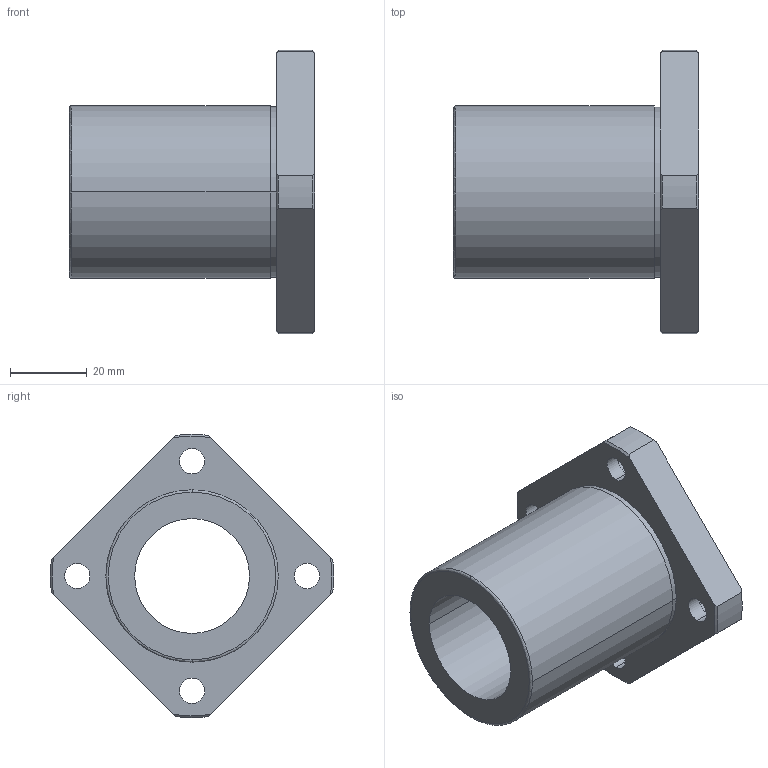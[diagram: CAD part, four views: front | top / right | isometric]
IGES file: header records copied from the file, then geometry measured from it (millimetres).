
Start section: 3D InterOp IGES (Version 21 0 1), Spatial Corp. Copyright (c) 1999-2007.
Global section: file name: NF-30TVUU.igs; native system: Spatial Corp.; preprocessor: 3D InterOp GENERIC/IGES 3.0; author: Noname; organization: Noname; date: 20220308.154105; units: millimetre
Bounding box: 64 x 73.97 x 73.95 mm (x, y, z)
Surface area: 21941.4 mm2 (no closed solid volume)
Topology: 0 solids, 0 shells, 51 faces, 256 edges, 256 vertices
Faces by surface type: revolution 39, extrusion 12
